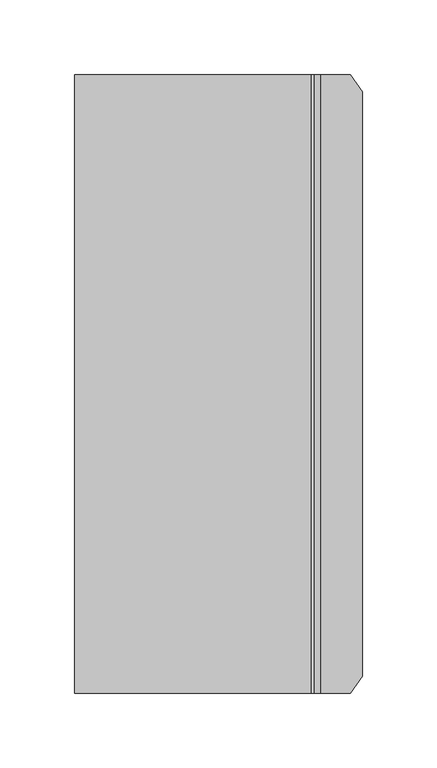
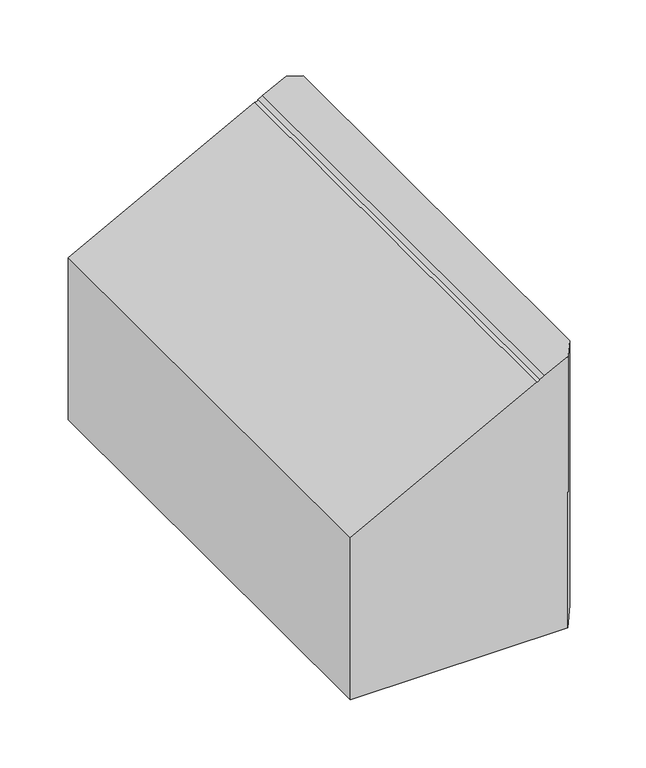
"""IFC4 building model written with IfcOpenShell, lengths in millimetres: light fixture geometry, OD74 (C) WST-LED : C - WST LED 1 10A700 SR4."""

import ifcopenshell
import ifcopenshell.guid

model = None  # the IFC model being written
_history = None  # IfcOwnerHistory: only IFC2X3 demands one
_inside = {}  # id of a spatial element -> (the spatial element, [elements in it])
_under = {}  # id of a project, library or spatial element -> (it, [spatial elements below it])
_declared = {}  # id of a project -> (the project, [libraries it declares])
_typed = {}  # id of a type object -> (the type object, [elements of that type])
_made_of = {}  # id of a material, layer set ... -> (it, [elements and type objects made of it])


def new_model(schema):
    """Start an empty IFC model of exactly this schema.

    Asked for "IFC4X3", IfcOpenShell would pick the latest addendum, in which some entities
    have other attributes; the version numbers below select the first issue.
    IFC2X3 requires an IfcOwnerHistory on every rooted entity: one is made here for all.
    """
    global model, _history
    if schema == "IFC4X3":
        model = ifcopenshell.file(schema_version=(4, 3, 0, 0))
    else:
        model = ifcopenshell.file(schema=schema)
    _inside.clear()
    _under.clear()
    _declared.clear()
    _typed.clear()
    _made_of.clear()
    _history = None
    if model.schema == "IFC2X3":
        org = make("IfcOrganization", Name="unknown")
        user = make(
            "IfcPersonAndOrganization",
            ThePerson=make("IfcPerson", FamilyName="unknown"),
            TheOrganization=org,
        )
        app = make(
            "IfcApplication",
            ApplicationDeveloper=org,
            Version="unknown",
            ApplicationFullName="unknown",
            ApplicationIdentifier="unknown",
        )
        _history = make(
            "IfcOwnerHistory",
            OwningUser=user,
            OwningApplication=app,
            ChangeAction="ADDED",
            CreationDate=0,
        )
    return model


def make(cls, **values):
    """One entity of the class cls with the attributes given. An attribute that is None is left unset."""
    return model.create_entity(
        cls, **{name: value for name, value in values.items() if value is not None}
    )


def rooted(cls, **values):
    """An entity with a GlobalId (a new one), such as an element, a storey or a relation."""
    return make(cls, GlobalId=ifcopenshell.guid.new(), OwnerHistory=_history, **values)


def si_unit(unit_type, name, prefix=None):
    """IfcSIUnit, for example si_unit("LENGTHUNIT", "METRE", prefix="MILLI")."""
    return make("IfcSIUnit", UnitType=unit_type, Prefix=prefix, Name=name)


def assignment(units):
    """IfcUnitAssignment: the units of a project."""
    return None if units is None else make("IfcUnitAssignment", Units=units)


def point(xyz):
    """IfcCartesianPoint."""
    return None if xyz is None else make("IfcCartesianPoint", Coordinates=xyz)


def direction(xyz):
    """IfcDirection."""
    return None if xyz is None else make("IfcDirection", DirectionRatios=xyz)


def frame(location, z_axis=None, x_axis=None):
    """IfcAxis2Placement3D, a coordinate frame: its origin and axes. An axis left out is left unset."""
    return make(
        "IfcAxis2Placement3D",
        Location=point(location),
        Axis=direction(z_axis),
        RefDirection=direction(x_axis),
    )


def origin():
    """The frame at (0, 0, 0) with its axes left unset."""
    return frame((0.0, 0.0, 0.0))


def place(relative_to, where):
    """IfcLocalPlacement: puts the frame where relative to a parent placement (None: the world)."""
    return make(
        "IfcLocalPlacement", PlacementRelTo=relative_to, RelativePlacement=where
    )


def context(
    kind, dimensions, precision=None, world=None, true_north=None, identifier=None
):
    """IfcGeometricRepresentationContext, for example the 3D "Model" context."""
    return make(
        "IfcGeometricRepresentationContext",
        ContextIdentifier=identifier,
        ContextType=kind,
        CoordinateSpaceDimension=dimensions,
        Precision=precision,
        WorldCoordinateSystem=world,
        TrueNorth=true_north,
    )


def project(units=None, contexts=None):
    """IfcProject with its units and contexts."""
    return rooted(
        "IfcProject",
        Name="project",
        RepresentationContexts=contexts,
        UnitsInContext=assignment(units),
    )


def spatial(cls, under=None, at=None, **own):
    """A site, building, storey or space (cls), placed at a placement, below another one or the project."""
    s = rooted(cls, ObjectPlacement=at, **own)
    if under is not None:
        _under.setdefault(under.id(), (under, []))[1].append(s)
    return s


def polyline(points):
    """IfcPolyline through the points."""
    return make("IfcPolyline", Points=[point(p) for p in points])


def circle_curve(where, radius):
    """IfcCircle in the frame where."""
    return make("IfcCircle", Position=where, Radius=radius)


def shape(context_of_items, identifier, shape_type, items):
    """IfcShapeRepresentation: the items that make up one representation, for example the "Body"."""
    return make(
        "IfcShapeRepresentation",
        ContextOfItems=context_of_items,
        RepresentationIdentifier=identifier,
        RepresentationType=shape_type,
        Items=items,
    )


def source(mapping_origin, context_of_items, identifier, shape_type, items):
    """IfcRepresentationMap: a shape defined once, which mapped items show again and again."""
    return make(
        "IfcRepresentationMap",
        MappingOrigin=mapping_origin,
        MappedRepresentation=shape(context_of_items, identifier, shape_type, items),
    )


def transform(
    local_origin,
    x_axis=None,
    y_axis=None,
    z_axis=None,
    scale=None,
    scale2=None,
    scale3=None,
    uniform=True,
):
    """IfcCartesianTransformationOperator3D, or its non-uniform kind. x_axis, y_axis, z_axis: its Axis1, 2, 3."""
    if uniform:
        return make(
            "IfcCartesianTransformationOperator3D",
            Axis1=direction(x_axis),
            Axis2=direction(y_axis),
            LocalOrigin=point(local_origin),
            Scale=scale,
            Axis3=direction(z_axis),
        )
    return make(
        "IfcCartesianTransformationOperator3DnonUniform",
        Axis1=direction(x_axis),
        Axis2=direction(y_axis),
        LocalOrigin=point(local_origin),
        Scale=scale,
        Axis3=direction(z_axis),
        Scale2=scale2,
        Scale3=scale3,
    )


def mapped(mapping_source, mapping_target):
    """IfcMappedItem: shows the shape of a source again, moved by a transform."""
    return make(
        "IfcMappedItem", MappingSource=mapping_source, MappingTarget=mapping_target
    )


def made_of(thing, what):
    """Note that an element or type object is made of a material, layer set ...; save() writes the relation."""
    if what is not None:
        _made_of.setdefault(what.id(), (what, []))[1].append(thing)
    return thing


def element(
    cls,
    number,
    at=None,
    inside=None,
    cuts=None,
    type_object=None,
    material=None,
    context=None,
    identifier="Body",
    shape_type=None,
    held_by="IfcProductDefinitionShape",
    body=None,
    shapes=None,
    **own,
):
    """One element of the class cls, such as IfcWall. Its Tag is "e" and its number.

    at: its placement. inside: the storey or other place that contains it. cuts: it is an
    opening in that element (IfcRelVoidsElement). A single representation is given by context,
    identifier, shape_type and body (its items); several are given by shapes. held_by: the class
    of the entity that holds the representations. save() writes the other relations.
    """
    e = rooted(cls, Tag="e%d" % number, ObjectPlacement=at, **own)
    if body is not None:
        shapes = [shape(context, identifier, shape_type, body)]
    if shapes is not None:
        e.Representation = make(held_by, Representations=shapes)
    if inside is not None:
        _inside.setdefault(inside.id(), (inside, []))[1].append(e)
    if cuts is not None:
        rooted(
            "IfcRelVoidsElement", RelatingBuildingElement=cuts, RelatedOpeningElement=e
        )
    if type_object is not None:
        _typed.setdefault(type_object.id(), (type_object, []))[1].append(e)
    return made_of(e, material)


def aggregate(whole, parts):
    """IfcRelAggregates: a whole, such as a stair, and the parts it consists of."""
    return rooted("IfcRelAggregates", RelatingObject=whole, RelatedObjects=parts)


def save(model, path):
    """Write the relations noted so far, then the file.

    IfcRelAggregates (storeys below a building ...), IfcRelContainedInSpatialStructure (elements
    in a storey), IfcRelDefinesByType, IfcRelAssociatesMaterial and IfcRelDeclares: one each for
    every whole, place, type object, material and project.
    """
    for whole, parts in _under.values():
        aggregate(whole, parts)
    for where, things in _inside.values():
        rooted(
            "IfcRelContainedInSpatialStructure",
            RelatedElements=things,
            RelatingStructure=where,
        )
    for kind, things in _typed.values():
        rooted("IfcRelDefinesByType", RelatedObjects=things, RelatingType=kind)
    for what, things in _made_of.values():
        rooted("IfcRelAssociatesMaterial", RelatedObjects=things, RelatingMaterial=what)
    for by, libraries in _declared.values():
        rooted("IfcRelDeclares", RelatingContext=by, RelatedDefinitions=libraries)
    model.write(path)


def plane_surface(at):
    """IfcPlane: the flat surface through the origin of the frame at, square to its z axis."""
    return make("IfcPlane", Position=at)


def revolved_surface(curve, axis_point, axis_direction):
    """IfcSurfaceOfRevolution: the curve turned about the line through axis_point along axis_direction."""
    return make(
        "IfcSurfaceOfRevolution",
        SweptCurve=make("IfcArbitraryOpenProfileDef", ProfileType="CURVE", Curve=curve),
        AxisPosition=make("IfcAxis1Placement", Location=point(axis_point), Axis=direction(axis_direction)),
    )


def advanced_brep(points, edges, surfaces, faces):
    """IfcAdvancedBrep: a solid bounded by faces that lie on surfaces and meet in shared edges.

    An edge is (start, end): straight between two places in points (the first is 0);
    or (start, end, curve); or (start, end, curve, False) where it runs against its curve.
    A face is (place in surfaces, loops), or (place, loops, False) where it looks against
    its surface's normal. A loop lists edges by number (the first is 1), with a minus sign
    where the edge is run from its end to its start. The first loop is the outer one.
    """
    corners = [point(p) for p in points]
    vertices = [make("IfcVertexPoint", VertexGeometry=c) for c in corners]
    made = []
    for start, end, *more in edges:
        made.append(
            make(
                "IfcEdgeCurve",
                EdgeStart=vertices[start],
                EdgeEnd=vertices[end],
                EdgeGeometry=more[0] if more else make("IfcPolyline", Points=[corners[start], corners[end]]),
                SameSense=more[1] if len(more) > 1 else True,
            )
        )
    hull = []
    for where, loops, *sense in faces:
        bounds = []
        for j, loop in enumerate(loops):
            ring = [make("IfcOrientedEdge", EdgeElement=made[abs(k) - 1], Orientation=k > 0) for k in loop]
            bounds.append(
                make(
                    "IfcFaceOuterBound" if j == 0 else "IfcFaceBound",
                    Bound=make("IfcEdgeLoop", EdgeList=ring),
                    Orientation=True,
                )
            )
        hull.append(make("IfcAdvancedFace", Bounds=bounds, FaceSurface=surfaces[where], SameSense=sense[0] if sense else True))
    return make("IfcAdvancedBrep", Outer=make("IfcClosedShell", CfsFaces=hull))


def light_fixture_9b770214(model_context):
    return source(origin(), model_context, "Body", "AdvancedBrep", [
        advanced_brep(
        [(354.0125, 206.375, 144.6803921), (511.8479298, 206.375, 228.6029788), (514.3052693, 206.375, 229.9095694), (518.0521302, 206.375, 231.9018107), (538.2222218, 206.375, 242.6264386), (538.2222218, 206.375, 0.0), (354.0125, 206.375, 0.0), (354.0125, -206.375, 144.6803921), (354.0125, -206.375, 0.0), (538.1625, -206.375, 0.0), (538.2222218, -206.375, 242.6264386), (518.0521302, -206.375, 231.9018107), (514.3052693, -206.375, 229.9095694), (511.8479298, -206.375, 228.6029788), (546.0830669, -195.1485498, 246.8061241), (546.0830669, 195.1485498, 246.8061241), (546.0830669, -195.1485498, 10.3677041), (546.0830669, 195.1485498, 10.3677041), (546.0830669, -160.4547261, 230.4718322), (546.0830669, 161.0439327, 230.4718322), (546.0830669, 180.5014616, 214.1450269), (546.0830669, 180.5014616, 39.819697), (546.0830669, 162.4994038, 24.7141769), (546.0830669, -161.3505962, 24.7141769), (546.0830669, -180.1077145, 39.3688438), (546.0830669, -180.1077145, 210.8188438), (535.1830193, 161.0439327, 230.4718322), (535.1830193, -160.4547261, 230.4718322), (535.1830193, -180.1077145, 210.8188438), (535.1830193, -180.1077145, 39.3688438), (535.1830193, -161.3505962, 24.7141769), (535.1830193, 162.4994038, 24.7141769), (535.1830193, 180.5014616, 39.819697), (535.1830193, 180.5014616, 214.1450269), (535.1830193, -86.9599647, 196.2289117), (535.1830193, 78.1400353, 196.2289117), (535.1830193, 78.1400353, 139.0789117), (535.1830193, -86.9599647, 139.0789117), (535.1830193, -86.9599647, 120.0289117), (535.1830193, 78.1400353, 120.0289117), (535.1830193, 78.1400353, 62.8789117), (535.1830193, -86.9599647, 62.8789117), (532.1288927, 78.1400353, 196.2289117), (532.1288927, -86.9599647, 196.2289117), (532.1288927, -86.9599647, 139.0789117), (532.1288927, 78.1400353, 139.0789117), (532.1288927, 78.1400353, 120.0289117), (532.1288927, -86.9599647, 120.0289117), (532.1288927, -86.9599647, 62.8789117), (532.1288927, 78.1400353, 62.8789117)],
        [
            (0, 1),
            (1, 2, circle_curve(frame((512.727251, 206.375, 229.9133032), z_axis=(0.0, -1.0, 0.0), x_axis=(-1.0, 0.0, 0.0)), 1.5780228)),
            (2, 3),
            (3, 4),
            (4, 5),
            (5, 6),
            (6, 0),
            (7, 8),
            (8, 9),
            (9, 10),
            (10, 11),
            (11, 12),
            (12, 13, circle_curve(frame((512.727251, -206.375, 229.9133032), z_axis=(0.0, 1.0, 0.0), x_axis=(-1.0, 0.0, 0.0)), 1.5780228)),
            (13, 7),
            (0, 7),
            (13, 1),
            (12, 2),
            (11, 3),
            (10, 14),
            (14, 15),
            (15, 4),
            (14, 16),
            (16, 17),
            (17, 15),
            (18, 19),
            (19, 20, circle_curve(frame((546.0830669, 161.0439327, 210.7141396), z_axis=(-1.0, 0.0, 0.0), x_axis=(0.0, 0.0, -1.0)), 19.7576926)),
            (20, 21),
            (21, 22, circle_curve(frame((546.0830669, 165.1629145, 39.819697), z_axis=(-1.0, 0.0, 0.0), x_axis=(0.0, 0.0, -1.0)), 15.3385471)),
            (22, 23),
            (23, 24, circle_curve(frame((546.0830669, -161.3505962, 44.0455187), z_axis=(-1.0, 0.0, 0.0), x_axis=(0.0, 0.0, -1.0)), 19.3313418)),
            (24, 25),
            (25, 18, circle_curve(frame((546.0830669, -160.4547261, 210.8188438), z_axis=(-1.0, 0.0, 0.0), x_axis=(0.0, 0.0, -1.0)), 19.6529884)),
            (9, 5),
            (5, 17),
            (16, 9),
            (8, 6),
            (26, 27),
            (27, 28, circle_curve(frame((535.1830193, -160.4547261, 210.8188438), z_axis=(1.0, 0.0, 0.0), x_axis=(0.0, 0.0, -1.0)), 19.6529884)),
            (28, 29),
            (29, 30, circle_curve(frame((535.1830193, -161.3505962, 44.0455187), z_axis=(1.0, 0.0, 0.0), x_axis=(0.0, 0.0, -1.0)), 19.3313418)),
            (30, 31),
            (31, 32, circle_curve(frame((535.1830193, 165.1629145, 39.819697), z_axis=(1.0, 0.0, 0.0), x_axis=(0.0, 0.0, -1.0)), 15.3385471)),
            (32, 33),
            (33, 26, circle_curve(frame((535.1830193, 161.0439327, 210.7141396), z_axis=(1.0, 0.0, 0.0), x_axis=(0.0, 0.0, -1.0)), 19.7576926)),
            (34, 35),
            (35, 36),
            (36, 37),
            (37, 34),
            (38, 39),
            (39, 40),
            (40, 41),
            (41, 38),
            (26, 19),
            (18, 27),
            (25, 28),
            (24, 29),
            (23, 30),
            (22, 31),
            (21, 32),
            (20, 33),
            (42, 43),
            (43, 44),
            (44, 45),
            (45, 42),
            (46, 47),
            (47, 48),
            (48, 49),
            (49, 46),
            (42, 35),
            (34, 43),
            (37, 44),
            (36, 45),
            (46, 39),
            (38, 47),
            (41, 48),
            (40, 49),
        ],
        [
            plane_surface(frame((354.0125, 206.375, 144.6803921), z_axis=(0.0, 1.0, 0.0), x_axis=(0.8829475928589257, 0.0, 0.46947156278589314))),
            plane_surface(frame((354.0125, -206.375, 144.6803921), z_axis=(0.0, -1.0, 0.0), x_axis=(-0.8829475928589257, 0.0, -0.46947156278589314))),
            plane_surface(frame((354.0125, 206.375, 144.6803921), z_axis=(-0.46947156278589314, 0.0, 0.8829475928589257), x_axis=(0.0, -1.0, 0.0))),
            revolved_surface(polyline([(511.14922820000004, -206.375, 229.9133032), (511.14922820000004, 206.375, 229.9133032)]), (512.727251, -206.375, 229.9133032), (0.0, -1.0, 0.0)),
            plane_surface(frame((514.3052693, 206.375, 229.9095694), z_axis=(-0.4694715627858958, 0.0, 0.8829475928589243), x_axis=(0.0, -1.0, 0.0))),
            plane_surface(frame((518.0521302, 206.375, 231.9018107), z_axis=(-0.46947156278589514, 0.0, 0.8829475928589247), x_axis=(0.0, -1.0, 0.0))),
            plane_surface(frame((546.0830669, 206.375, 246.8061241), z_axis=(1.0, 0.0, 0.0), x_axis=(0.0, -1.0, 0.0))),
            plane_surface(frame((546.0830669, 206.375, 10.3677041), z_axis=(0.7946416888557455, 0.0, -0.6070787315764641), x_axis=(0.0, -1.0, 0.0))),
            plane_surface(frame((538.1625, 206.375, 0.0), z_axis=(0.0, 0.0, -1.0), x_axis=(0.0, -1.0, 0.0))),
            plane_surface(frame((354.0125, 206.375, 0.0), z_axis=(-1.0, 0.0, 0.0), x_axis=(0.0, -1.0, 0.0))),
            plane_surface(frame((535.1830193, -160.2111856, 230.4718322), z_axis=(1.0, 0.0, 0.0), x_axis=(0.0, 1.0, 0.0))),
            plane_surface(frame((567.6687575, 161.0439327, 230.4718322), z_axis=(0.0, 0.0, -1.0), x_axis=(-1.0, 0.0, 0.0))),
            revolved_surface(polyline([(546.0830669, -160.4547261, 191.1658554), (535.1830193, -160.4547261, 191.1658554)]), (535.1830193, -160.4547261, 210.8188438), (1.0, 0.0, 0.0)),
            plane_surface(frame((567.6687575, -180.1077145, 210.8188438), z_axis=(0.0, 1.0, 0.0), x_axis=(-1.0, 0.0, 0.0))),
            revolved_surface(polyline([(546.0830669, -161.3505962, 24.714176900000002), (535.1830193, -161.3505962, 24.714176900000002)]), (535.1830193, -161.3505962, 44.0455187), (1.0, 0.0, 0.0)),
            plane_surface(frame((567.6687575, -161.3505962, 24.7141769), z_axis=(0.0, 0.0, 1.0), x_axis=(-1.0, 0.0, 0.0))),
            revolved_surface(polyline([(546.0830669, 165.1629145, 24.4811499), (535.1830193, 165.1629145, 24.4811499)]), (535.1830193, 165.1629145, 39.819697), (1.0, 0.0, 0.0)),
            plane_surface(frame((567.6687575, 180.5014616, 39.819697), z_axis=(0.0, -1.0, 0.0), x_axis=(-1.0, 0.0, 0.0))),
            revolved_surface(polyline([(546.0830669, 161.0439327, 190.95644700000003), (535.1830193, 161.0439327, 190.95644700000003)]), (535.1830193, 161.0439327, 210.7141396), (1.0, 0.0, 0.0)),
            plane_surface(frame((535.1830193, 210.7154311, 255.0111951), z_axis=(0.8191520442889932, 0.5735764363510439, 0.0), x_axis=(0.0, 0.0, -1.0))),
            plane_surface(frame((551.2242663, -187.8061561, 255.0111951), z_axis=(0.8191520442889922, -0.5735764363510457, 0.0), x_axis=(0.0, 0.0, -1.0))),
            plane_surface(frame((532.1288927, -86.9599647, 196.2289117), z_axis=(1.0, 0.0, 0.0), x_axis=(0.0, 1.0, 0.0))),
            plane_surface(frame((551.0737415, 78.1400353, 196.2289117), z_axis=(0.0, 0.0, -1.0), x_axis=(-1.0, 0.0, 0.0))),
            plane_surface(frame((551.0737415, -86.9599647, 196.2289117), z_axis=(0.0, 1.0, 0.0), x_axis=(-1.0, 0.0, 0.0))),
            plane_surface(frame((551.0737415, -86.9599647, 139.0789117), z_axis=(0.0, 0.0, 1.0), x_axis=(-1.0, 0.0, 0.0))),
            plane_surface(frame((551.0737415, 78.1400353, 139.0789117), z_axis=(0.0, -1.0, 0.0), x_axis=(-1.0, 0.0, 0.0))),
            plane_surface(frame((551.0737415, 78.1400353, 120.0289117), z_axis=(0.0, 0.0, -1.0), x_axis=(-1.0, 0.0, 0.0))),
            plane_surface(frame((551.0737415, -86.9599647, 120.0289117), z_axis=(0.0, 1.0, 0.0), x_axis=(-1.0, 0.0, 0.0))),
            plane_surface(frame((551.0737415, -86.9599647, 62.8789117), z_axis=(0.0, 0.0, 1.0), x_axis=(-1.0, 0.0, 0.0))),
            plane_surface(frame((551.0737415, 78.1400353, 62.8789117), z_axis=(0.0, -1.0, 0.0), x_axis=(-1.0, 0.0, 0.0))),
        ],
        [
            (0, [[1, 2, 3, 4, 5, 6, 7]]),
            (1, [[8, 9, 10, 11, 12, 13, 14]]),
            (2, [[-1, 15, -14, 16]]),
            (3, [[-2, -16, -13, 17]]),
            (4, [[-3, -17, -12, 18]]),
            (5, [[-18, -11, 19, 20, 21, -4]]),
            (6, [[-20, 22, 23, 24], [25, 26, 27, 28, 29, 30, 31, 32]]),
            (7, [[33, 34, -23, 35]]),
            (8, [[-6, -33, -9, 36]]),
            (9, [[-7, -36, -8, -15]]),
            (10, [[37, 38, 39, 40, 41, 42, 43, 44], [45, 46, 47, 48], [49, 50, 51, 52]]),
            (11, [[-37, 53, -25, 54]]),
            (12, [[-38, -54, -32, 55]]),
            (13, [[-39, -55, -31, 56]]),
            (14, [[-40, -56, -30, 57]]),
            (15, [[-41, -57, -29, 58]]),
            (16, [[-42, -58, -28, 59]]),
            (17, [[-43, -59, -27, 60]]),
            (18, [[-44, -60, -26, -53]]),
            (19, [[-5, -21, -24, -34]]),
            (20, [[-10, -35, -22, -19]]),
            (21, [[61, 62, 63, 64]]),
            (21, [[65, 66, 67, 68]]),
            (22, [[-61, 69, -45, 70]]),
            (23, [[-62, -70, -48, 71]]),
            (24, [[-63, -71, -47, 72]]),
            (25, [[-64, -72, -46, -69]]),
            (26, [[-65, 73, -49, 74]]),
            (27, [[-66, -74, -52, 75]]),
            (28, [[-67, -75, -51, 76]]),
            (29, [[-68, -76, -50, -73]]),
        ],
    ),
    ])


if __name__ == "__main__":
    model = new_model("IFC4")
    model_context = context("Model", 3, world=origin())
    ifc_project = project(units=[si_unit("LENGTHUNIT", "METRE", prefix="MILLI")], contexts=[model_context])
    site = spatial("IfcSite", under=ifc_project)
    building = spatial("IfcBuilding", under=site)
    placement = place(None, origin())
    light_fixture_shape = light_fixture_9b770214(model_context)
    element("IfcLightFixture", 1, ObjectType="OD74 (C) WST-LED : C - WST LED 1 10A700 SR4", at=placement, inside=building, context=model_context, shape_type="MappedRepresentation", body=[
        mapped(light_fixture_shape, transform((0.0, 0.0, 0.0), x_axis=(1.0, 0.0, 0.0), y_axis=(0.0, 1.0, 0.0), z_axis=(0.0, 0.0, 1.0))),
    ])
    save(model, "model.ifc")
